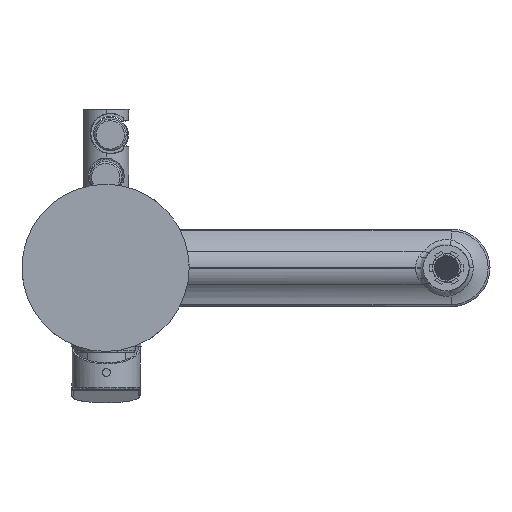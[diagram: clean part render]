
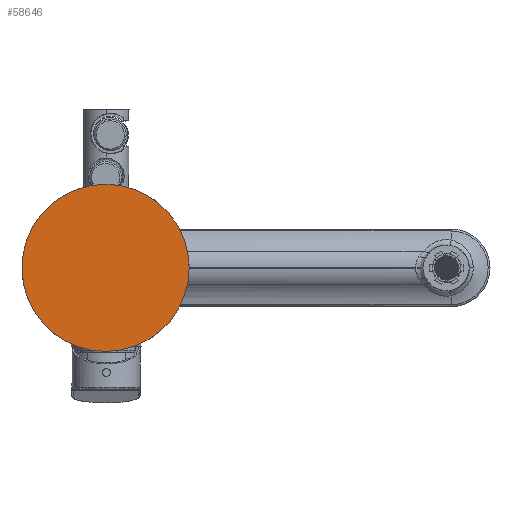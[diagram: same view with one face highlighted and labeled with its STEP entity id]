
A CAD part, front view. The second image highlights one B-rep face of the part: STEP entity #58646.
In plain terms, the highlighted planar face has unit normal (0, -1, 0).
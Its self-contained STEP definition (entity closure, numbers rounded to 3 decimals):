
#1418 = VERTEX_POINT ( 'NONE', #12036 ) ;
#9398 = FACE_OUTER_BOUND ( 'NONE', #27839, .T. ) ;
#11194 = AXIS2_PLACEMENT_3D ( 'NONE', #88195, #72598, #26138 ) ;
#12036 = CARTESIAN_POINT ( 'NONE',  ( -375.5, -747.728, 9.532 ) ) ;
#12059 = EDGE_CURVE ( 'NONE', #1418, #64916, #29991, .T. ) ;
#14274 = DIRECTION ( 'NONE',  ( 0., 1., 0. ) ) ;
#18680 = EDGE_CURVE ( 'NONE', #64916, #1418, #77955, .T. ) ;
#23758 = CARTESIAN_POINT ( 'NONE',  ( -265.504, -747.728, 10.465 ) ) ;
#26138 = DIRECTION ( 'NONE',  ( 0., 0., 1. ) ) ;
#27839 = EDGE_LOOP ( 'NONE', ( #60255, #32556 ) ) ;
#29473 = DIRECTION ( 'NONE',  ( -1., 0., -0.008 ) ) ;
#29991 = CIRCLE ( 'NONE', #39699, 55. ) ;
#30642 = DIRECTION ( 'NONE',  ( -1., 0., -0.008 ) ) ;
#32556 = ORIENTED_EDGE ( 'NONE', *, *, #18680, .F. ) ;
#35574 = CARTESIAN_POINT ( 'NONE',  ( -320.502, -747.728, 9.998 ) ) ;
#37681 = AXIS2_PLACEMENT_3D ( 'NONE', #35574, #14274, #29473 ) ;
#39699 = AXIS2_PLACEMENT_3D ( 'NONE', #99756, #60491, #30642 ) ;
#58646 = ADVANCED_FACE ( 'NONE', ( #9398 ), #95227, .F. ) ;
#60255 = ORIENTED_EDGE ( 'NONE', *, *, #12059, .F. ) ;
#60491 = DIRECTION ( 'NONE',  ( 0., 1., 0. ) ) ;
#64916 = VERTEX_POINT ( 'NONE', #23758 ) ;
#72598 = DIRECTION ( 'NONE',  ( 0., 1., 0. ) ) ;
#77955 = CIRCLE ( 'NONE', #37681, 55. ) ;
#88195 = CARTESIAN_POINT ( 'NONE',  ( -328.223, -747.728, 20.996 ) ) ;
#95227 = PLANE ( 'NONE',  #11194 ) ;
#99756 = CARTESIAN_POINT ( 'NONE',  ( -320.502, -747.728, 9.998 ) ) ;
